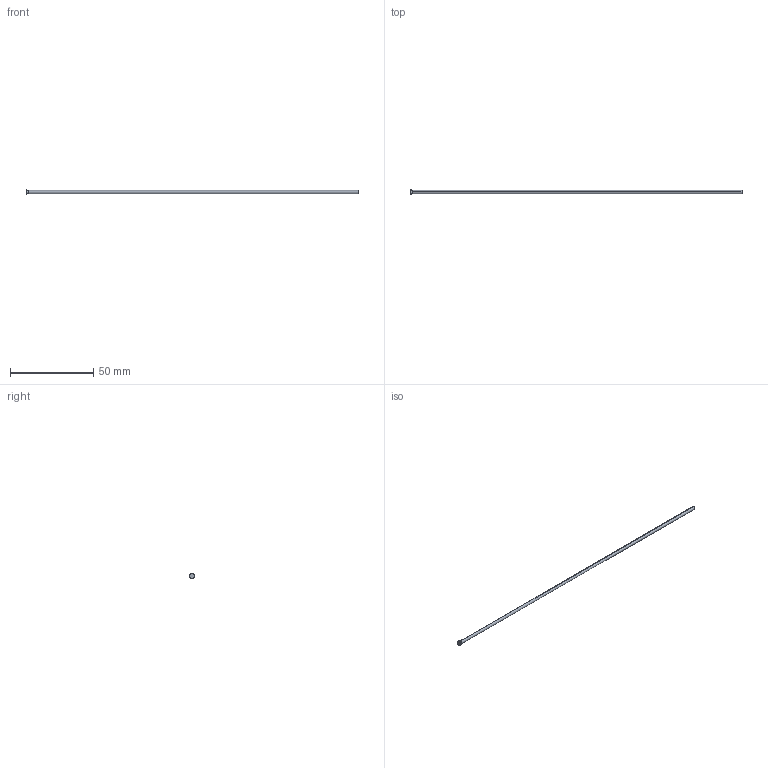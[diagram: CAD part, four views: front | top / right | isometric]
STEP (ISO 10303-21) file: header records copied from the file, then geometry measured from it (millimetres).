
FILE_DESCRIPTION (( 'STEP AP214' ), '1' );
FILE_NAME ('D-1,9x200.STEP', '2020-06-08T09:44:38', ( 'August' ), ( '' ), 'SwSTEP 2.0', 'SolidWorks 2018', '' );
FILE_SCHEMA (( 'AUTOMOTIVE_DESIGN' ));
Length unit declared in the file: millimetre
Products named in the file (1): D-1,9x200
Bounding box: 200 x 2.8 x 2.8 mm (x, y, z)
Volume: 570 mm3; surface area: 1206.2 mm2
Topology: 1 solids, 1 shells, 10 faces, 18 edges, 10 vertices
Faces by surface type: cylinder 4, torus 2, cone 2, plane 2
Entity records: 280 total; most frequent: DIRECTION 52, CARTESIAN_POINT 39, ORIENTED_EDGE 36, AXIS2_PLACEMENT_3D 23, EDGE_CURVE 18, CIRCLE 12, ADVANCED_FACE 10, FACE_OUTER_BOUND 10
